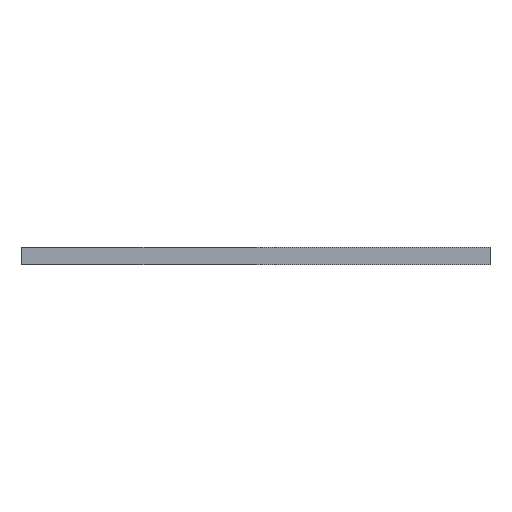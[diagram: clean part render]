
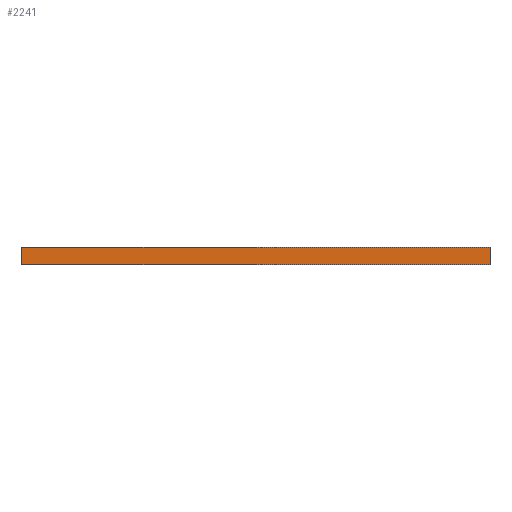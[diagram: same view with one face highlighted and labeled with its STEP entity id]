
A CAD part, left-side view. The second image highlights one B-rep face of the part: STEP entity #2241.
In plain terms, the highlighted planar face has unit normal (-1, 0, 0).
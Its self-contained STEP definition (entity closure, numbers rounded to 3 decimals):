
#225 = DIRECTION ( 'NONE',  ( 0., -1., 0. ) ) ;
#226 = VECTOR ( 'NONE', #225, 1000. ) ;
#227 = CARTESIAN_POINT ( 'NONE',  ( -127.5, 110., 8. ) ) ;
#345 = CARTESIAN_POINT ( 'NONE',  ( -127.5, -110., 8. ) ) ;
#346 = CARTESIAN_POINT ( 'NONE',  ( -127.5, 110., 8. ) ) ;
#400 = LINE ( 'NONE', #227, #226 ) ;
#607 = VECTOR ( 'NONE', #632, 1000. ) ;
#608 = CARTESIAN_POINT ( 'NONE',  ( -127.5, 110., 8. ) ) ;
#620 = LINE ( 'NONE', #608, #607 ) ;
#632 = DIRECTION ( 'NONE',  ( 0., 0., -1. ) ) ;
#681 = CARTESIAN_POINT ( 'NONE',  ( -127.5, 110., 0. ) ) ;
#800 = DIRECTION ( 'NONE',  ( 0., -1., 0. ) ) ;
#801 = VECTOR ( 'NONE', #800, 1000. ) ;
#802 = CARTESIAN_POINT ( 'NONE',  ( -127.5, 110., 0. ) ) ;
#803 = LINE ( 'NONE', #802, #801 ) ;
#804 = DIRECTION ( 'NONE',  ( 0., 0., -1. ) ) ;
#805 = DIRECTION ( 'NONE',  ( 1., 0., 0. ) ) ;
#806 = CARTESIAN_POINT ( 'NONE',  ( -127.5, 110., 8. ) ) ;
#807 = AXIS2_PLACEMENT_3D ( 'NONE', #806, #805, #804 ) ;
#808 = PLANE ( 'NONE',  #807 ) ;
#809 = FACE_OUTER_BOUND ( 'NONE', #2242, .T. ) ;
#912 = DIRECTION ( 'NONE',  ( 0., 0., -1. ) ) ;
#982 = VECTOR ( 'NONE', #912, 1000. ) ;
#983 = CARTESIAN_POINT ( 'NONE',  ( -127.5, -110., 8. ) ) ;
#984 = LINE ( 'NONE', #983, #982 ) ;
#995 = CARTESIAN_POINT ( 'NONE',  ( -127.5, -110., 0. ) ) ;
#1961 = EDGE_CURVE ( 'NONE', #1962, #1963, #400, .T. ) ;
#1962 = VERTEX_POINT ( 'NONE', #346 ) ;
#1963 = VERTEX_POINT ( 'NONE', #345 ) ;
#2131 = EDGE_CURVE ( 'NONE', #1962, #2260, #620, .T. ) ;
#2241 = ADVANCED_FACE ( 'NONE', ( #809 ), #808, .F. ) ;
#2242 = EDGE_LOOP ( 'NONE', ( #2246, #2247, #2290, #2291 ) ) ;
#2246 = ORIENTED_EDGE ( 'NONE', *, *, #2248, .T. ) ;
#2247 = ORIENTED_EDGE ( 'NONE', *, *, #2289, .F. ) ;
#2248 = EDGE_CURVE ( 'NONE', #2260, #2352, #803, .T. ) ;
#2260 = VERTEX_POINT ( 'NONE', #681 ) ;
#2289 = EDGE_CURVE ( 'NONE', #1963, #2352, #984, .T. ) ;
#2290 = ORIENTED_EDGE ( 'NONE', *, *, #1961, .F. ) ;
#2291 = ORIENTED_EDGE ( 'NONE', *, *, #2131, .T. ) ;
#2352 = VERTEX_POINT ( 'NONE', #995 ) ;
